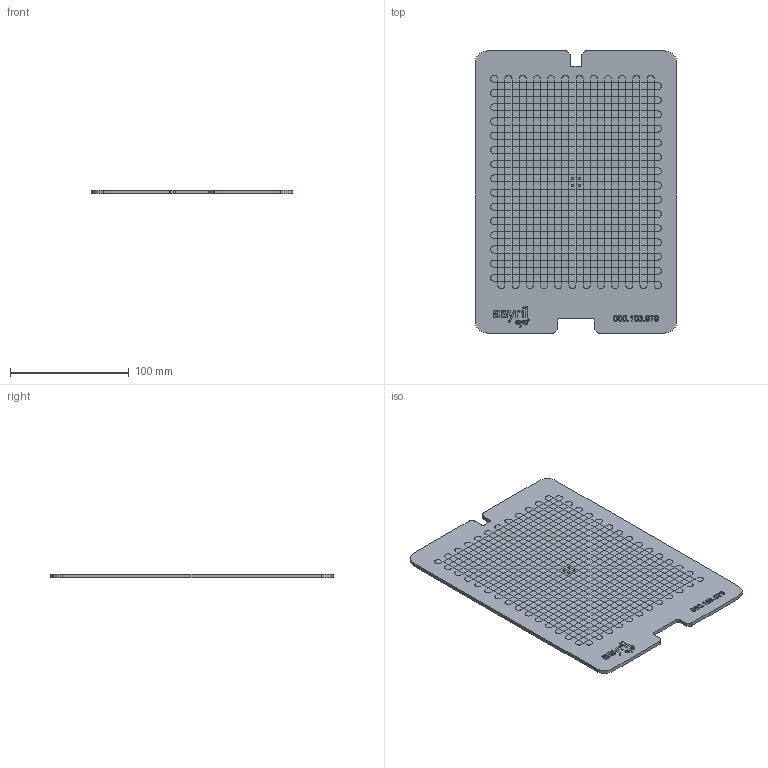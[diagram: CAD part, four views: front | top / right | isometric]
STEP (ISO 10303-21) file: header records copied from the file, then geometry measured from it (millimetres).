
FILE_DESCRIPTION (( 'STEP AP214' ), '1' );
FILE_NAME ('Asyril_EYE+ CALIBRATION PLATE - 240_000.103.979.STEP', '2020-11-05T11:31:22', ( '' ), ( '' ), 'SwSTEP 2.0', 'SolidWorks 2017', '' );
FILE_SCHEMA (( 'AUTOMOTIVE_DESIGN' ));
Length unit declared in the file: millimetre
Products named in the file (1): Asyril_EYE+ CALIBRATION PLATE - 240_000.103.979
Bounding box: 170 x 238 x 3 mm (x, y, z)
Volume: 119520.6 mm3; surface area: 82199.5 mm2
Topology: 1 solids, 1 shells, 739 faces, 1775 edges, 1076 vertices
Faces by surface type: plane 723, cylinder 16
Entity records: 25863 total; most frequent: CARTESIAN_POINT 5174, ORIENTED_EDGE 3550, DIRECTION 3196, EDGE_CURVE 1775, VECTOR 1532, LINE 1532, VERTEX_POINT 1076, AXIS2_PLACEMENT_3D 832
